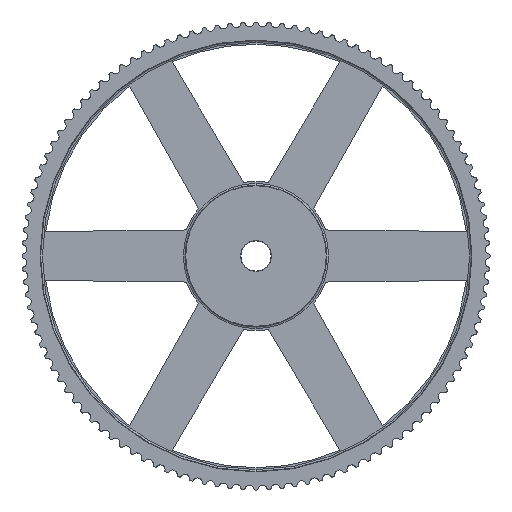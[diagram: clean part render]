
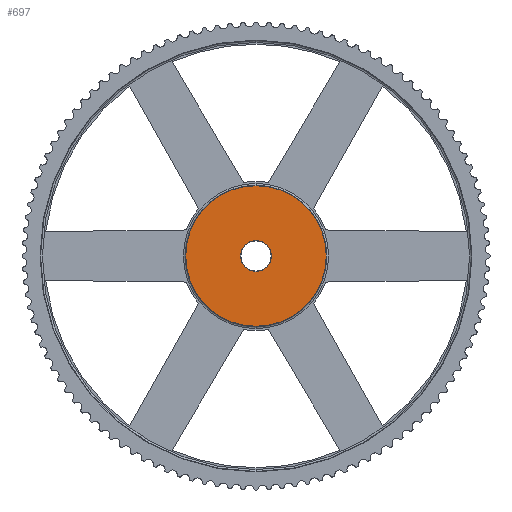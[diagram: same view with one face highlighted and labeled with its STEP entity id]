
A CAD part, left-side view. The second image highlights one B-rep face of the part: STEP entity #697.
In plain terms, the highlighted planar face has unit normal (-1, 0, 0).
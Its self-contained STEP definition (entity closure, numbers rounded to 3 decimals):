
#697=ADVANCED_FACE('',(#1960,#1961),#1962,.T.);
#1960=FACE_BOUND('',#3226,.T.);
#1961=FACE_OUTER_BOUND('',#3227,.T.);
#1962=PLANE('',#3228);
#3226=EDGE_LOOP('',(#8774,#8775));
#3227=EDGE_LOOP('',(#8776,#8777));
#3228=AXIS2_PLACEMENT_3D('',#8778,#8779,#8780);
#8774=ORIENTED_EDGE('',*,*,#8859,.T.);
#8775=ORIENTED_EDGE('',*,*,#8865,.T.);
#8776=ORIENTED_EDGE('',*,*,#10627,.T.);
#8777=ORIENTED_EDGE('',*,*,#8798,.T.);
#8778=CARTESIAN_POINT('',(0.0,0.0,0.0));
#8779=DIRECTION('',(-1.0,0.0,0.0));
#8780=DIRECTION('',(0.0,0.0,1.0));
#8798=EDGE_CURVE('',#10650,#10647,#10651,.T.);
#8859=EDGE_CURVE('',#10759,#10761,#10763,.T.);
#8865=EDGE_CURVE('',#10761,#10759,#10771,.T.);
#10627=EDGE_CURVE('',#10647,#10650,#13693,.T.);
#10647=VERTEX_POINT('',#13717);
#10650=VERTEX_POINT('',#13721);
#10651=CIRCLE('',#13722,74.5);
#10759=VERTEX_POINT('',#13851);
#10761=VERTEX_POINT('',#13854);
#10763=CIRCLE('',#13857,16.5);
#10771=CIRCLE('',#13867,16.5);
#13693=CIRCLE('',#17393,74.5);
#13717=CARTESIAN_POINT('',(0.0,74.5,0.0));
#13721=CARTESIAN_POINT('',(0.0,-74.5,0.));
#13722=AXIS2_PLACEMENT_3D('',#17416,#17417,#17418);
#13851=CARTESIAN_POINT('',(0.0,16.5,0.0));
#13854=CARTESIAN_POINT('',(0.0,-16.5,0.));
#13857=AXIS2_PLACEMENT_3D('',#17553,#17554,#17555);
#13867=AXIS2_PLACEMENT_3D('',#17567,#17568,#17569);
#17393=AXIS2_PLACEMENT_3D('',#21645,#21646,#21647);
#17416=CARTESIAN_POINT('',(0.0,0.0,0.));
#17417=DIRECTION('',(-1.0,0.0,0.0));
#17418=DIRECTION('',(0.0,1.0,0.0));
#17553=CARTESIAN_POINT('',(0.0,0.0,0.0));
#17554=DIRECTION('',(1.0,0.0,0.0));
#17555=DIRECTION('',(0.0,1.0,0.0));
#17567=CARTESIAN_POINT('',(0.0,0.0,0.0));
#17568=DIRECTION('',(1.0,0.0,0.0));
#17569=DIRECTION('',(0.0,1.0,0.0));
#21645=CARTESIAN_POINT('',(0.0,0.0,0.));
#21646=DIRECTION('',(-1.0,0.0,0.0));
#21647=DIRECTION('',(0.0,1.0,0.0));
